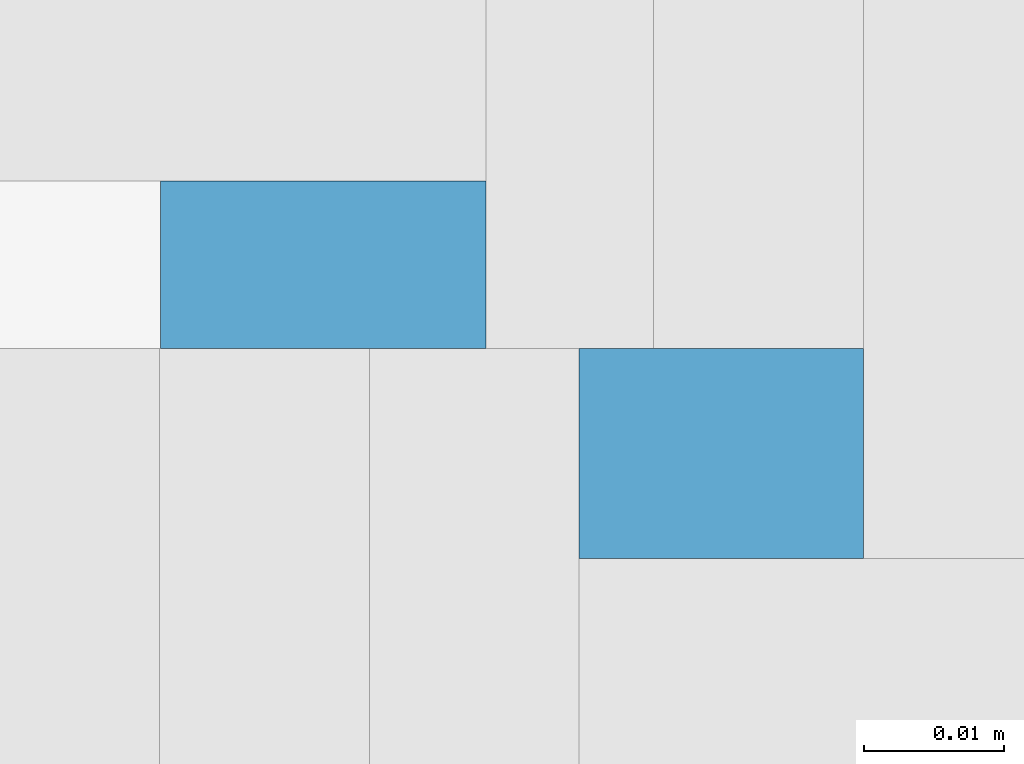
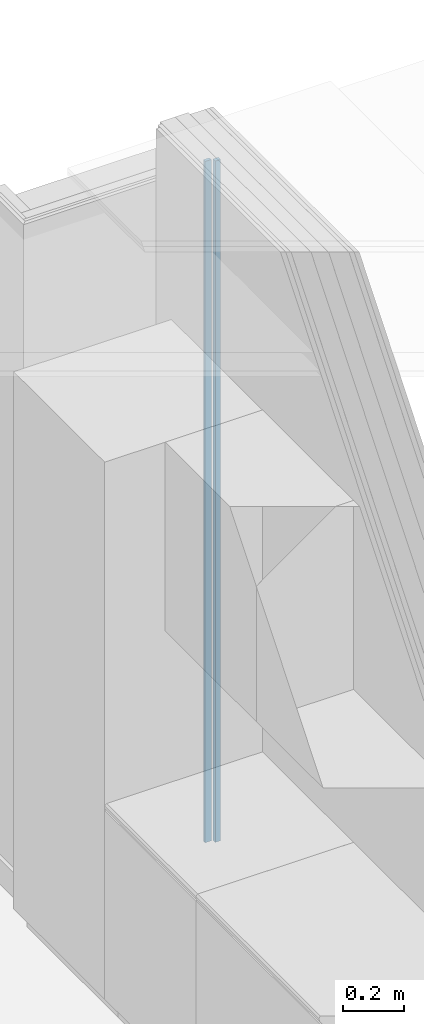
# One storey, part 15 of 64: 2 building element parts, 1 element without a shape of its own.
"""IFC2X3 building model written with IfcOpenShell, lengths in metres."""

from ifc_helpers import new_model, entity, si_unit, converted_unit, derived_unit, money_unit, direction, frame, frame_2d, origin_with_axes, place, context, subcontext, project, spatial, rectangle, extrude, material, type_object, element, aggregate, save


model = new_model("IFC2X3")

# Units and contexts
model_context = context("Model", 3, precision=1e-05, world=origin_with_axes(), true_north=direction((0.0, 1.0)))
body_context = subcontext(model_context, "Body", "Model", "MODEL_VIEW", scale=1.0)
ifc_project = project(units=[si_unit("LENGTHUNIT", "METRE"), si_unit("AREAUNIT", "SQUARE_METRE"), si_unit("VOLUMEUNIT", "CUBIC_METRE"), si_unit("ABSORBEDDOSEUNIT", "GRAY"), si_unit("AMOUNTOFSUBSTANCEUNIT", "MOLE"), si_unit("DOSEEQUIVALENTUNIT", "SIEVERT"), si_unit("ELECTRICCAPACITANCEUNIT", "FARAD"), si_unit("ELECTRICCHARGEUNIT", "COULOMB"), si_unit("ELECTRICCONDUCTANCEUNIT", "SIEMENS"), si_unit("ELECTRICCURRENTUNIT", "AMPERE"), si_unit("ELECTRICRESISTANCEUNIT", "OHM"), si_unit("ELECTRICVOLTAGEUNIT", "VOLT"), si_unit("ENERGYUNIT", "JOULE"), si_unit("FORCEUNIT", "NEWTON"), si_unit("FREQUENCYUNIT", "HERTZ"), si_unit("ILLUMINANCEUNIT", "LUX"), si_unit("INDUCTANCEUNIT", "HENRY"), si_unit("LUMINOUSFLUXUNIT", "LUMEN"), si_unit("LUMINOUSINTENSITYUNIT", "CANDELA"), si_unit("MAGNETICFLUXDENSITYUNIT", "TESLA"), si_unit("MAGNETICFLUXUNIT", "WEBER"), si_unit("MASSUNIT", "GRAM"), converted_unit("PLANEANGLEUNIT", "degree", entity("IfcReal", 0.0174532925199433), si_unit("PLANEANGLEUNIT", "RADIAN"), dimensions=[0, 0, 0, 0, 0, 0, 0]), si_unit("POWERUNIT", "WATT"), si_unit("PRESSUREUNIT", "PASCAL"), si_unit("RADIOACTIVITYUNIT", "BECQUEREL"), si_unit("SOLIDANGLEUNIT", "STERADIAN"), si_unit("THERMODYNAMICTEMPERATUREUNIT", "KELVIN"), si_unit("TIMEUNIT", "SECOND"), derived_unit("ACCELERATIONUNIT", [(si_unit("LENGTHUNIT", "METRE"), 1), (si_unit("TIMEUNIT", "SECOND"), -2)]), derived_unit("ANGULARVELOCITYUNIT", [(converted_unit("PLANEANGLEUNIT", "degree", entity("IfcReal", 0.0174532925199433), si_unit("PLANEANGLEUNIT", "RADIAN"), dimensions=[0, 0, 0, 0, 0, 0, 0]), 1), (si_unit("TIMEUNIT", "SECOND"), -1)]), derived_unit("CURVATUREUNIT", [(converted_unit("PLANEANGLEUNIT", "degree", entity("IfcReal", 0.0174532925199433), si_unit("PLANEANGLEUNIT", "RADIAN"), dimensions=[0, 0, 0, 0, 0, 0, 0]), 1), (si_unit("LENGTHUNIT", "METRE"), -1)]), derived_unit("DYNAMICVISCOSITYUNIT", [(si_unit("PRESSUREUNIT", "PASCAL"), 1), (si_unit("TIMEUNIT", "SECOND"), 1)]), derived_unit("HEATFLUXDENSITYUNIT", [(si_unit("POWERUNIT", "WATT"), 1), (si_unit("LENGTHUNIT", "METRE"), -2)]), derived_unit("HEATINGVALUEUNIT", [(si_unit("ENERGYUNIT", "JOULE"), 1), (si_unit("MASSUNIT", "GRAM"), -1)]), derived_unit("INTEGERCOUNTRATEUNIT", [(si_unit("TIMEUNIT", "SECOND"), -1)]), derived_unit("IONCONCENTRATIONUNIT", [(si_unit("MASSUNIT", "GRAM"), 1), (si_unit("VOLUMEUNIT", "CUBIC_METRE"), -1)]), derived_unit("ISOTHERMALMOISTURECAPACITYUNIT", [(si_unit("VOLUMEUNIT", "CUBIC_METRE"), 1), (si_unit("MASSUNIT", "GRAM"), -1)]), derived_unit("KINEMATICVISCOSITYUNIT", [(si_unit("AREAUNIT", "SQUARE_METRE"), 1), (si_unit("TIMEUNIT", "SECOND"), -1)]), derived_unit("LINEARFORCEUNIT", [(si_unit("FORCEUNIT", "NEWTON"), 1), (si_unit("LENGTHUNIT", "METRE"), -1)]), derived_unit("LINEARMOMENTUNIT", [(si_unit("FORCEUNIT", "NEWTON"), 1), (si_unit("LENGTHUNIT", "METRE"), -1)]), derived_unit("LINEARSTIFFNESSUNIT", [(si_unit("FORCEUNIT", "NEWTON"), 1), (si_unit("LENGTHUNIT", "METRE"), -1)]), derived_unit("LINEARVELOCITYUNIT", [(si_unit("LENGTHUNIT", "METRE"), 1), (si_unit("TIMEUNIT", "SECOND"), -1)]), derived_unit("LUMINOUSINTENSITYDISTRIBUTIONUNIT", [(si_unit("LUMINOUSINTENSITYUNIT", "CANDELA"), 1), (si_unit("LUMINOUSFLUXUNIT", "LUMEN"), -1)]), derived_unit("MASSDENSITYUNIT", [(si_unit("MASSUNIT", "GRAM"), 1), (si_unit("VOLUMEUNIT", "CUBIC_METRE"), -1)]), derived_unit("MASSFLOWRATEUNIT", [(si_unit("MASSUNIT", "GRAM"), 1), (si_unit("TIMEUNIT", "SECOND"), -1)]), derived_unit("MASSPERLENGTHUNIT", [(si_unit("MASSUNIT", "GRAM"), 1), (si_unit("LENGTHUNIT", "METRE"), -1)]), derived_unit("MODULUSOFELASTICITYUNIT", [(si_unit("FORCEUNIT", "NEWTON"), 1), (si_unit("AREAUNIT", "SQUARE_METRE"), -1)]), derived_unit("MODULUSOFLINEARSUBGRADEREACTIONUNIT", [(si_unit("FORCEUNIT", "NEWTON"), 1), (si_unit("LENGTHUNIT", "METRE"), -2)]), derived_unit("MODULUSOFROTATIONALSUBGRADEREACTIONUNIT", [(si_unit("FORCEUNIT", "NEWTON"), 1), (si_unit("LENGTHUNIT", "METRE"), 1)]), derived_unit("MODULUSOFSUBGRADEREACTIONUNIT", [(si_unit("FORCEUNIT", "NEWTON"), 1), (si_unit("VOLUMEUNIT", "CUBIC_METRE"), -1)]), derived_unit("MOISTUREDIFFUSIVITYUNIT", [(si_unit("VOLUMEUNIT", "CUBIC_METRE"), 1), (si_unit("TIMEUNIT", "SECOND"), -1)]), derived_unit("MOLECULARWEIGHTUNIT", [(si_unit("MASSUNIT", "GRAM"), 1), (si_unit("AMOUNTOFSUBSTANCEUNIT", "MOLE"), -1)]), derived_unit("PLANARFORCEUNIT", [(si_unit("FORCEUNIT", "NEWTON"), 1), (si_unit("LENGTHUNIT", "METRE"), -2)]), derived_unit("ROTATIONALFREQUENCYUNIT", [(si_unit("TIMEUNIT", "SECOND"), -1)]), derived_unit("ROTATIONALMASSUNIT", [(si_unit("MASSUNIT", "GRAM"), 1), (si_unit("LENGTHUNIT", "METRE"), 2)]), derived_unit("ROTATIONALSTIFFNESSUNIT", [(si_unit("FORCEUNIT", "NEWTON"), 1), (si_unit("LENGTHUNIT", "METRE"), 1), (converted_unit("PLANEANGLEUNIT", "degree", entity("IfcReal", 0.0174532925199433), si_unit("PLANEANGLEUNIT", "RADIAN"), dimensions=[0, 0, 0, 0, 0, 0, 0]), -1)]), derived_unit("SECTIONAREAINTEGRALUNIT", [(si_unit("LENGTHUNIT", "METRE"), 5)]), derived_unit("SECTIONMODULUSUNIT", [(si_unit("LENGTHUNIT", "METRE"), 3)]), derived_unit("SHEARMODULUSUNIT", [(si_unit("FORCEUNIT", "NEWTON"), 1), (si_unit("AREAUNIT", "SQUARE_METRE"), -1)]), derived_unit("SOUNDPOWERUNIT", [(si_unit("ENERGYUNIT", "JOULE"), 1), (si_unit("TIMEUNIT", "SECOND"), -1)]), derived_unit("SPECIFICHEATCAPACITYUNIT", [(si_unit("FORCEUNIT", "NEWTON"), 1), (si_unit("MASSUNIT", "GRAM"), -1), (si_unit("THERMODYNAMICTEMPERATUREUNIT", "KELVIN"), -1)]), derived_unit("TEMPERATUREGRADIENTUNIT", [(si_unit("THERMODYNAMICTEMPERATUREUNIT", "KELVIN"), 1), (si_unit("LENGTHUNIT", "METRE"), -1)]), derived_unit("THERMALADMITTANCEUNIT", [(si_unit("POWERUNIT", "WATT"), 1), (si_unit("AREAUNIT", "SQUARE_METRE"), -1), (si_unit("THERMODYNAMICTEMPERATUREUNIT", "KELVIN"), -1)]), derived_unit("THERMALCONDUCTANCEUNIT", [(si_unit("POWERUNIT", "WATT"), 1), (si_unit("LENGTHUNIT", "METRE"), -1), (si_unit("THERMODYNAMICTEMPERATUREUNIT", "KELVIN"), -1)]), derived_unit("THERMALEXPANSIONCOEFFICIENTUNIT", [(si_unit("THERMODYNAMICTEMPERATUREUNIT", "KELVIN"), -1)]), derived_unit("THERMALRESISTANCEUNIT", [(si_unit("AREAUNIT", "SQUARE_METRE"), 1), (si_unit("POWERUNIT", "WATT"), -1)]), derived_unit("THERMALTRANSMITTANCEUNIT", [(si_unit("POWERUNIT", "WATT"), 1), (si_unit("AREAUNIT", "SQUARE_METRE"), -1), (si_unit("THERMODYNAMICTEMPERATUREUNIT", "KELVIN"), -1)]), derived_unit("TORQUEUNIT", [(si_unit("FORCEUNIT", "NEWTON"), 1), (si_unit("LENGTHUNIT", "METRE"), 1)]), derived_unit("VAPORPERMEABILITYUNIT", [(si_unit("MASSUNIT", "GRAM"), 1), (si_unit("TIMEUNIT", "SECOND"), -1)]), derived_unit("VOLUMETRICFLOWRATEUNIT", [(si_unit("VOLUMEUNIT", "CUBIC_METRE"), 1), (si_unit("TIMEUNIT", "SECOND"), -1)]), derived_unit("WARPINGCONSTANTUNIT", [(si_unit("LENGTHUNIT", "METRE"), 6)]), derived_unit("WARPINGMOMENTUNIT", [(si_unit("FORCEUNIT", "NEWTON"), 1), (si_unit("LENGTHUNIT", "METRE"), 2)]), money_unit("GBP")], contexts=[model_context])

# Site, building, storey
site_placement = place(None, origin_with_axes())
site = spatial("IfcSite", under=ifc_project, at=site_placement, Name="Site", CompositionType="ELEMENT")
building_placement = place(site_placement, origin_with_axes())
building = spatial("IfcBuilding", under=site, at=building_placement, Name="Building01", CompositionType="ELEMENT")
storey_placement = place(building_placement, frame((0.0, 0.0, 8.64), z_axis=(0.0, 0.0, 1.0), x_axis=(1.0, 0.0, 0.0)))
storey = spatial("IfcBuildingStorey", under=building, at=storey_placement, Name="2F", CompositionType="ELEMENT", Elevation=8.64)

# Wall, building element parts
wall_type = type_object("IfcWallType", Name="SHE_A-Walls_Type06f_ExternalWallInsulation_48+15mm", PredefinedType="NOTDEFINED")
wall_placement = place(storey_placement, frame((7.283, 14.63, 0.0), z_axis=(0.0, 0.0, 1.0), x_axis=(-1.0, 0.0, 0.0)))
wall = element("IfcWall", 1, at=wall_placement, inside=storey, type_object=wall_type, Name="6F", ObjectType="SHE_A-Walls_Type06f_ExternalWallInsulation_48+15mm")
ifc_material = material(Name="A_BSUK_WallInternal_Finishes_Plasterboard")
placement = place(wall_placement, origin_with_axes())
building_element_part_1 = element("IfcBuildingElementPart", 2, at=placement, material=ifc_material, Name="2", context=body_context, shape_type="SweptSolid", body=[
    extrude(rectangle(XDim=0.012, YDim=0.023252, at=frame_2d((0.011626, 0.042), x_axis=(0.0, -1.0))), origin_with_axes(), (0.0, 0.0, 1.0), 2.74),
])
building_element_part_2 = element("IfcBuildingElementPart", 3, at=placement, material=ifc_material, Name="4", context=body_context, shape_type="SweptSolid", body=[
    extrude(rectangle(XDim=0.020331, YDim=0.015, at=frame_2d((-0.016834, 0.0555), x_axis=(-1.0, 0.0))), origin_with_axes(), (0.0, 0.0, 1.0), 2.74),
])
aggregate(wall, [building_element_part_1, building_element_part_2])

save(model, "model.ifc")
